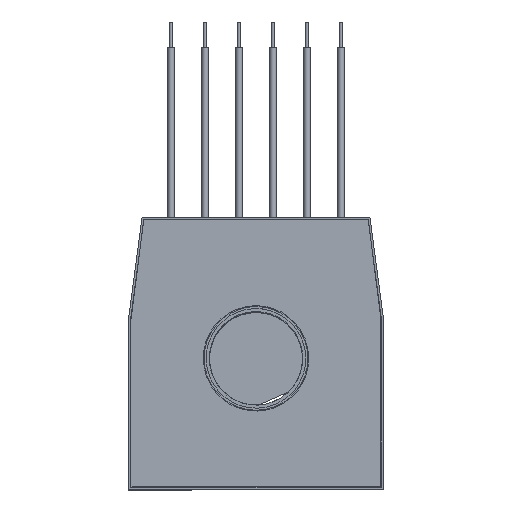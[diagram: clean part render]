
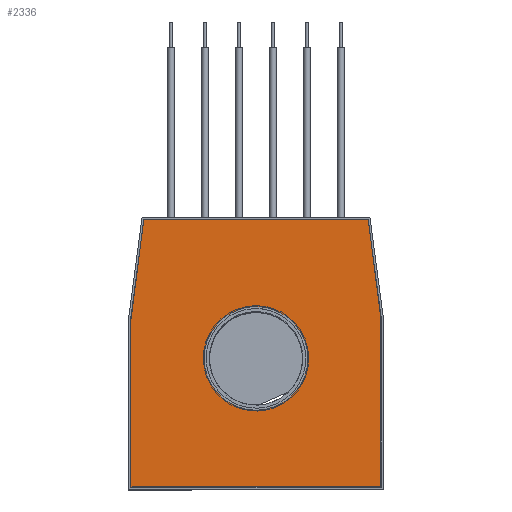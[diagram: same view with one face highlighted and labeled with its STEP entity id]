
A CAD part, top view. The second image highlights one B-rep face of the part: STEP entity #2336.
In plain terms, the highlighted planar face has unit normal (0, 0, 1).
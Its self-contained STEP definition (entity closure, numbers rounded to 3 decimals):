
#2336=ADVANCED_FACE('',(#3780,#3782),#3784,.T.);
#3780=FACE_BOUND('',#3781,.T.);
#3781=EDGE_LOOP('',(#4630,#4631,#4632,#4633,#4634,#4635));
#3782=FACE_BOUND('',#3783,.T.);
#3783=EDGE_LOOP('',(#4636));
#3784=PLANE('',#3785);
#3785=AXIS2_PLACEMENT_3D('',#3786,#3787,#3788);
#3786=CARTESIAN_POINT('',(0.,0.,5.));
#3787=DIRECTION('',(0.,0.,1.));
#3788=DIRECTION('',(1.,0.,0.));
#4630=ORIENTED_EDGE('',*,*,#5049,.T.);
#4631=ORIENTED_EDGE('',*,*,#5050,.T.);
#4632=ORIENTED_EDGE('',*,*,#5051,.T.);
#4633=ORIENTED_EDGE('',*,*,#5052,.T.);
#4634=ORIENTED_EDGE('',*,*,#5053,.T.);
#4635=ORIENTED_EDGE('',*,*,#5054,.T.);
#4636=ORIENTED_EDGE('',*,*,#5055,.T.);
#5049=EDGE_CURVE('',#5719,#5720,#5721,.T.);
#5050=EDGE_CURVE('',#5720,#5722,#5723,.T.);
#5051=EDGE_CURVE('',#5722,#5724,#5725,.T.);
#5052=EDGE_CURVE('',#5724,#5726,#5727,.T.);
#5053=EDGE_CURVE('',#5726,#5728,#5729,.T.);
#5054=EDGE_CURVE('',#5728,#5719,#5730,.T.);
#5055=EDGE_CURVE('',#5731,#5731,#5732,.F.);
#5719=VERTEX_POINT('',#7267);
#5720=VERTEX_POINT('',#7268);
#5721=LINE('',#7269,#7270);
#5722=VERTEX_POINT('',#7272);
#5723=LINE('',#7273,#7274);
#5724=VERTEX_POINT('',#7276);
#5725=LINE('',#7277,#7278);
#5726=VERTEX_POINT('',#7280);
#5727=LINE('',#7281,#7282);
#5728=VERTEX_POINT('',#7284);
#5729=LINE('',#7285,#7286);
#5730=LINE('',#7288,#7289);
#5731=VERTEX_POINT('',#7291);
#5732=CIRCLE('',#7292,30.5);
#7267=CARTESIAN_POINT('',(-73.5,19.815,5.));
#7268=CARTESIAN_POINT('',(-73.5,-78.5,5.));
#7269=CARTESIAN_POINT('',(-73.5,19.815,5.));
#7270=VECTOR('',#7271,1.);
#7271=DIRECTION('',(0.,-1.,0.));
#7272=CARTESIAN_POINT('',(73.5,-78.5,5.));
#7273=CARTESIAN_POINT('',(-73.5,-78.5,5.));
#7274=VECTOR('',#7275,1.);
#7275=DIRECTION('',(1.,0.,0.));
#7276=CARTESIAN_POINT('',(73.5,19.815,5.));
#7277=CARTESIAN_POINT('',(73.5,-78.5,5.));
#7278=VECTOR('',#7279,1.);
#7279=DIRECTION('',(0.,1.,0.));
#7280=CARTESIAN_POINT('',(66.,78.5,5.));
#7281=CARTESIAN_POINT('',(73.5,19.815,5.));
#7282=VECTOR('',#7283,1.);
#7283=DIRECTION('',(-0.127,0.992,0.));
#7284=CARTESIAN_POINT('',(-66.,78.5,5.));
#7285=CARTESIAN_POINT('',(66.,78.5,5.));
#7286=VECTOR('',#7287,1.);
#7287=DIRECTION('',(-1.,0.,0.));
#7288=CARTESIAN_POINT('',(-66.,78.5,5.));
#7289=VECTOR('',#7290,1.);
#7290=DIRECTION('',(-0.127,-0.992,0.));
#7291=CARTESIAN_POINT('',(30.5,-3.,5.));
#7292=AXIS2_PLACEMENT_3D('',#7293,#7294,#7295);
#7293=CARTESIAN_POINT('',(0.,-3.,5.));
#7294=DIRECTION('',(0.,0.,1.));
#7295=DIRECTION('',(1.,0.,0.));
